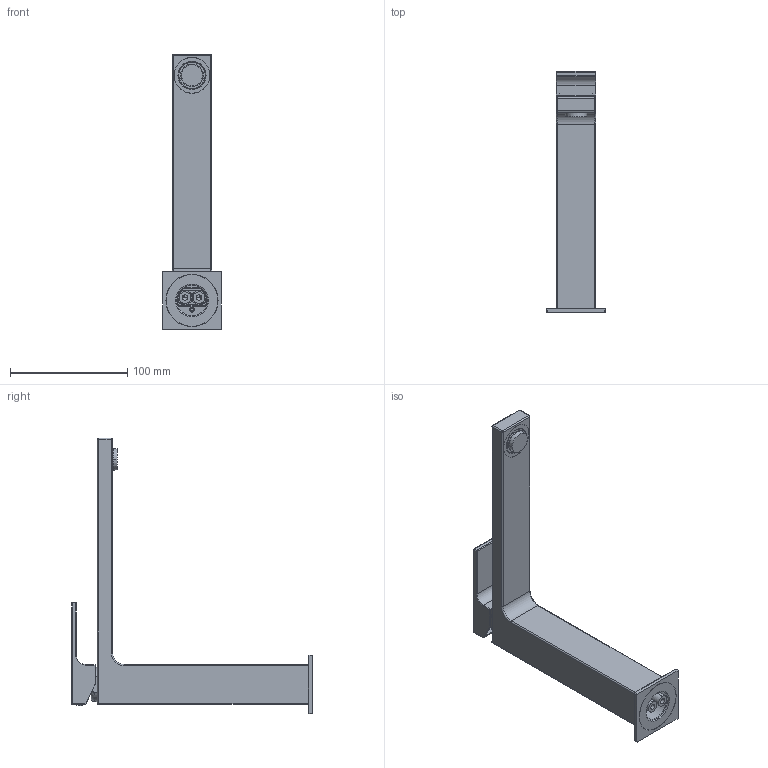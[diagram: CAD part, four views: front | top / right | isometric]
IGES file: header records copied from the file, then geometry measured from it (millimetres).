
Start section:  PTC IGES file: 35040.igs
Global section: file name: 35040.igs; native system: Creo Parametric by PTC Inc.; preprocessor: 2022014; author: carloff; organization: Unknown; date: 20260203.164916; units: millimetre
Bounding box: 50 x 205.4 x 235 mm (x, y, z)
Surface area: 118437.6 mm2 (no closed solid volume)
Topology: 0 solids, 0 shells, 1904 faces, 9215 edges, 9142 vertices
Faces by surface type: revolution 1207, bspline 697
